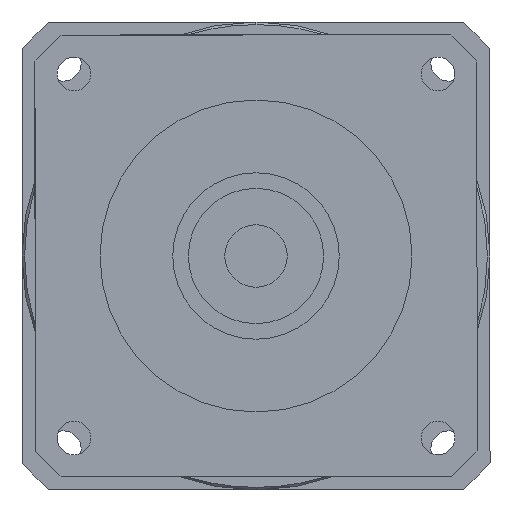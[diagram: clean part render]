
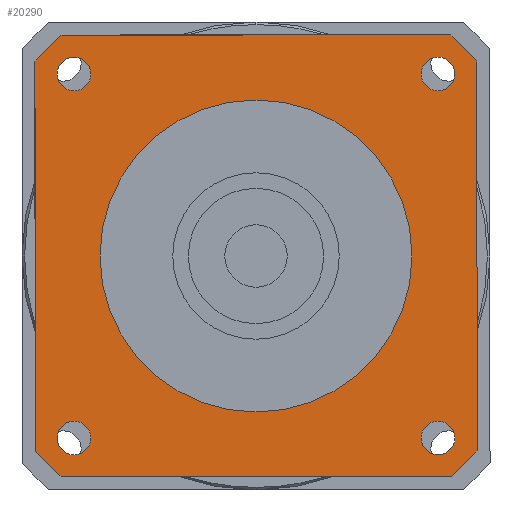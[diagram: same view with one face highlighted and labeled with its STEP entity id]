
A CAD part, left-side view. The second image highlights one B-rep face of the part: STEP entity #20290.
In plain terms, the highlighted planar face has unit normal (-1, 0, 0) as drawn and (0, 0, -1) by its records, which use the part's own axes.
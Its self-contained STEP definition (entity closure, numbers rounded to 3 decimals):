
#15940=CARTESIAN_POINT('',(0.,80.,-117.));
#15950=DIRECTION('',(0.707,0.707,
0.));
#15960=VECTOR('',#15950,1.);
#15970=LINE('',#15940,#15960);
#15980=CARTESIAN_POINT('',(-42.5,37.5,-117.));
#15990=VERTEX_POINT('',#15980);
#16000=CARTESIAN_POINT('',(-37.5,42.5,-117.));
#16010=VERTEX_POINT('',#16000);
#16020=EDGE_CURVE('',#15990,#16010,#15970,.T.);
#16340=CARTESIAN_POINT('',(0.,-80.,-117.));
#16350=DIRECTION('',(-0.707,-0.707,
0.));
#16360=VECTOR('',#16350,1.);
#16370=LINE('',#16340,#16360);
#16380=CARTESIAN_POINT('',(42.5,-37.5,-117.));
#16390=VERTEX_POINT('',#16380);
#16400=CARTESIAN_POINT('',(37.5,-42.5,-117.));
#16410=VERTEX_POINT('',#16400);
#16420=EDGE_CURVE('',#16390,#16410,#16370,.T.);
#17700=CARTESIAN_POINT('',(0.,42.5,-117.))
;
#17710=DIRECTION('',(-1.,0.,0.));
#17720=VECTOR('',#17710,1.);
#17730=LINE('',#17700,#17720);
#17740=CARTESIAN_POINT('',(37.5,42.5,-117.));
#17750=VERTEX_POINT('',#17740);
#17760=EDGE_CURVE('',#17750,#16010,#17730,.T.);
#18130=CARTESIAN_POINT('',(80.,0.,-117.));
#18140=DIRECTION('',(0.707,-0.707,
0.));
#18150=VECTOR('',#18140,1.);
#18160=LINE('',#18130,#18150);
#18170=CARTESIAN_POINT('',(42.5,37.5,-117.));
#18180=VERTEX_POINT('',#18170);
#18190=EDGE_CURVE('',#17750,#18180,#18160,.T.);
#18800=CARTESIAN_POINT('',(35.002,-31.752,-117.));
#18810=VERTEX_POINT('',#18800);
#18900=CARTESIAN_POINT('',(35.002,-38.252,-117.));
#18910=VERTEX_POINT('',#18900);
#18940=CARTESIAN_POINT('',(35.002,-35.002,-117.));
#18950=DIRECTION('',(0.,0.,-1.));
#18960=DIRECTION('',(1.,0.,0.));
#18970=AXIS2_PLACEMENT_3D('',#18940,#18950,#18960);
#18980=CIRCLE('',#18970,3.25);
#18990=CARTESIAN_POINT('',(38.252,-35.002,-117.));
#19000=VERTEX_POINT('',#18990);
#19010=EDGE_CURVE('',#19000,#18910,#18980,.T.);
#19030=EDGE_CURVE('',#18810,#19000,#18980,.T.);
#19080=CARTESIAN_POINT('',(-40.,40.,-117.));
#19090=DIRECTION('',(0.,0.,1.));
#19100=DIRECTION('',(-1.,0.,0.));
#19110=AXIS2_PLACEMENT_3D('',#19080,#19090,#19100);
#19120=PLANE('',#19110);
#19130=ORIENTED_EDGE('',*,*,#19010,.F.);
#19140=EDGE_CURVE('',#18910,#18810,#18980,.T.);
#19150=ORIENTED_EDGE('',*,*,#19140,.F.);
#19160=ORIENTED_EDGE('',*,*,#19030,.F.);
#19170=EDGE_LOOP('',(#19160,#19150,#19130));
#19180=FACE_BOUND('',#19170,.T.);
#19190=CARTESIAN_POINT('',(35.002,35.002,-117.));
#19200=DIRECTION('',(0.,0.,-1.));
#19210=DIRECTION('',(0.,1.,0.));
#19220=AXIS2_PLACEMENT_3D('',#19190,#19200,#19210);
#19230=CIRCLE('',#19220,3.25);
#19240=CARTESIAN_POINT('',(35.002,38.252,-117.));
#19250=VERTEX_POINT('',#19240);
#19260=CARTESIAN_POINT('',(38.252,35.002,-117.));
#19270=VERTEX_POINT('',#19260);
#19280=EDGE_CURVE('',#19250,#19270,#19230,.T.);
#19290=ORIENTED_EDGE('',*,*,#19280,.F.);
#19300=CARTESIAN_POINT('',(31.752,35.002,-117.));
#19310=VERTEX_POINT('',#19300);
#19320=EDGE_CURVE('',#19270,#19310,#19230,.T.);
#19330=ORIENTED_EDGE('',*,*,#19320,.F.);
#19340=EDGE_CURVE('',#19310,#19250,#19230,.T.);
#19350=ORIENTED_EDGE('',*,*,#19340,.F.);
#19360=EDGE_LOOP('',(#19350,#19330,#19290));
#19370=FACE_BOUND('',#19360,.T.);
#19380=CARTESIAN_POINT('',(-35.002,35.002,-117.));
#19390=DIRECTION('',(0.,0.,-1.));
#19400=DIRECTION('',(-1.,0.,0.));
#19410=AXIS2_PLACEMENT_3D('',#19380,#19390,#19400);
#19420=CIRCLE('',#19410,3.25);
#19430=CARTESIAN_POINT('',(-38.252,35.002,-117.));
#19440=VERTEX_POINT('',#19430);
#19450=CARTESIAN_POINT('',(-35.002,38.252,-117.));
#19460=VERTEX_POINT('',#19450);
#19470=EDGE_CURVE('',#19440,#19460,#19420,.T.);
#19480=ORIENTED_EDGE('',*,*,#19470,.F.);
#19490=CARTESIAN_POINT('',(-35.002,31.752,-117.));
#19500=VERTEX_POINT('',#19490);
#19510=EDGE_CURVE('',#19460,#19500,#19420,.T.);
#19520=ORIENTED_EDGE('',*,*,#19510,.F.);
#19530=EDGE_CURVE('',#19500,#19440,#19420,.T.);
#19540=ORIENTED_EDGE('',*,*,#19530,.F.);
#19550=EDGE_LOOP('',(#19540,#19520,#19480));
#19560=FACE_BOUND('',#19550,.T.);
#19570=CARTESIAN_POINT('',(-35.002,-35.002,-117.));
#19580=DIRECTION('',(0.,0.,-1.));
#19590=DIRECTION('',(0.,-1.,0.));
#19600=AXIS2_PLACEMENT_3D('',#19570,#19580,#19590);
#19610=CIRCLE('',#19600,3.25);
#19620=CARTESIAN_POINT('',(-35.002,-38.252,-117.));
#19630=VERTEX_POINT('',#19620);
#19640=CARTESIAN_POINT('',(-38.252,-35.002,-117.));
#19650=VERTEX_POINT('',#19640);
#19660=EDGE_CURVE('',#19630,#19650,#19610,.T.);
#19670=ORIENTED_EDGE('',*,*,#19660,.F.);
#19680=CARTESIAN_POINT('',(-31.752,-35.002,-117.));
#19690=VERTEX_POINT('',#19680);
#19700=EDGE_CURVE('',#19650,#19690,#19610,.T.);
#19710=ORIENTED_EDGE('',*,*,#19700,.F.);
#19720=EDGE_CURVE('',#19690,#19630,#19610,.T.);
#19730=ORIENTED_EDGE('',*,*,#19720,.F.);
#19740=EDGE_LOOP('',(#19730,#19710,#19670));
#19750=FACE_BOUND('',#19740,.T.);
#19760=CARTESIAN_POINT('',(0.,0.,
-117.));
#19770=DIRECTION('',(0.,0.,1.));
#19780=DIRECTION('',(0.,-1.,0.));
#19790=AXIS2_PLACEMENT_3D('',#19760,#19770,#19780);
#19800=CIRCLE('',#19790,30.);
#19810=CARTESIAN_POINT('',(30.,0.,-117.));
#19820=VERTEX_POINT('',#19810);
#19830=CARTESIAN_POINT('',(-30.,0.,-117.));
#19840=VERTEX_POINT('',#19830);
#19850=EDGE_CURVE('',#19820,#19840,#19800,.T.);
#19860=ORIENTED_EDGE('',*,*,#19850,.T.);
#19870=CARTESIAN_POINT('',(0.,-30.,-117.));
#19880=VERTEX_POINT('',#19870);
#19890=EDGE_CURVE('',#19880,#19820,#19800,.T.);
#19900=ORIENTED_EDGE('',*,*,#19890,.T.);
#19910=EDGE_CURVE('',#19840,#19880,#19800,.T.);
#19920=ORIENTED_EDGE('',*,*,#19910,.T.);
#19930=EDGE_LOOP('',(#19920,#19900,#19860));
#19940=FACE_BOUND('',#19930,.T.);
#19950=ORIENTED_EDGE('',*,*,#16020,.T.);
#19960=CARTESIAN_POINT('',(-42.5,0.,-117.)
);
#19970=DIRECTION('',(0.,-1.,0.));
#19980=VECTOR('',#19970,1.);
#19990=LINE('',#19960,#19980);
#20000=CARTESIAN_POINT('',(-42.5,-37.5,-117.));
#20010=VERTEX_POINT('',#20000);
#20020=EDGE_CURVE('',#15990,#20010,#19990,.T.);
#20030=ORIENTED_EDGE('',*,*,#20020,.F.);
#20040=CARTESIAN_POINT('',(-80.,0.,-117.));
#20050=DIRECTION('',(-0.707,0.707,
0.));
#20060=VECTOR('',#20050,1.);
#20070=LINE('',#20040,#20060);
#20080=CARTESIAN_POINT('',(-37.5,-42.5,-117.));
#20090=VERTEX_POINT('',#20080);
#20100=EDGE_CURVE('',#20090,#20010,#20070,.T.);
#20110=ORIENTED_EDGE('',*,*,#20100,.T.);
#20120=CARTESIAN_POINT('',(0.,-42.5,-117.)
);
#20130=DIRECTION('',(1.,0.,0.));
#20140=VECTOR('',#20130,1.);
#20150=LINE('',#20120,#20140);
#20160=EDGE_CURVE('',#20090,#16410,#20150,.T.);
#20170=ORIENTED_EDGE('',*,*,#20160,.F.);
#20180=ORIENTED_EDGE('',*,*,#16420,.T.);
#20190=CARTESIAN_POINT('',(42.5,0.,-117.))
;
#20200=DIRECTION('',(0.,1.,0.));
#20210=VECTOR('',#20200,1.);
#20220=LINE('',#20190,#20210);
#20230=EDGE_CURVE('',#16390,#18180,#20220,.T.);
#20240=ORIENTED_EDGE('',*,*,#20230,.F.);
#20250=ORIENTED_EDGE('',*,*,#18190,.T.);
#20260=ORIENTED_EDGE('',*,*,#17760,.F.);
#20270=EDGE_LOOP('',(#20260,#20250,#20240,#20180,#20170,#20110,#20030,
#19950));
#20280=FACE_OUTER_BOUND('',#20270,.T.);
#20290=ADVANCED_FACE('',(#19180,#19370,#19560,#19750,#19940,#20280),
#19120,.F.);
